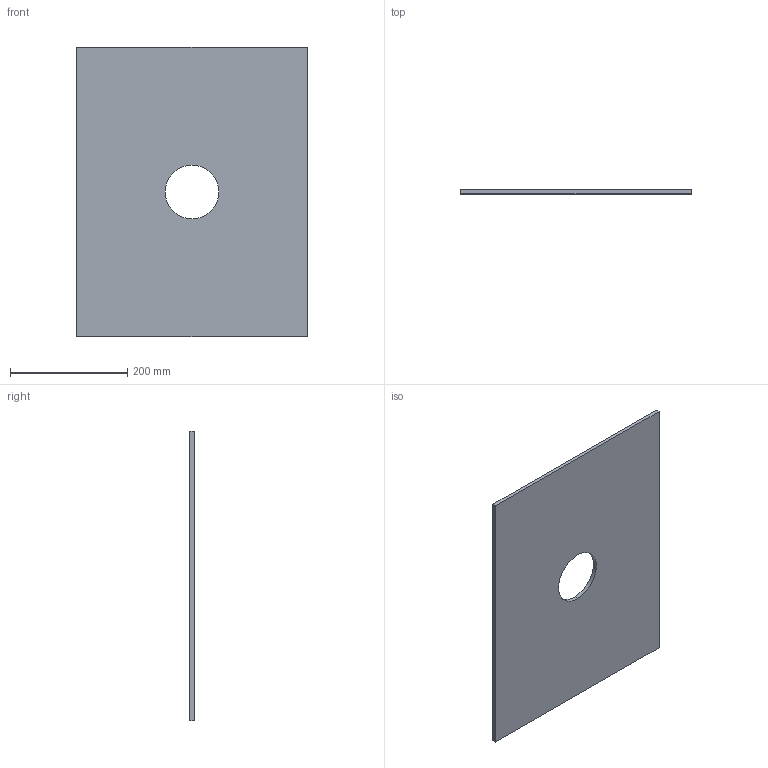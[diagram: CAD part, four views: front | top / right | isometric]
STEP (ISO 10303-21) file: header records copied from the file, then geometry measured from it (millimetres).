
FILE_DESCRIPTION (( 'STEP AP214' ), '1' );
FILE_NAME ('R43_396x496x7_90.STEP', '2016-02-05T20:09:04', ( '' ), ( '' ), 'SwSTEP 2.0', 'SolidWorks 2014', '' );
FILE_SCHEMA (( 'AUTOMOTIVE_DESIGN' ));
Length unit declared in the file: millimetre
Products named in the file (1): R43_396x496x7_90
Bounding box: 394 x 7 x 494 mm (x, y, z)
Volume: 1316423.2 mm3; surface area: 390565.1 mm2
Topology: 1 solids, 1 shells, 8 faces, 18 edges, 12 vertices
Faces by surface type: plane 6, cylinder 2
Entity records: 264 total; most frequent: DIRECTION 40, CARTESIAN_POINT 39, ORIENTED_EDGE 36, EDGE_CURVE 18, VECTOR 14, LINE 14, AXIS2_PLACEMENT_3D 13, VERTEX_POINT 12
